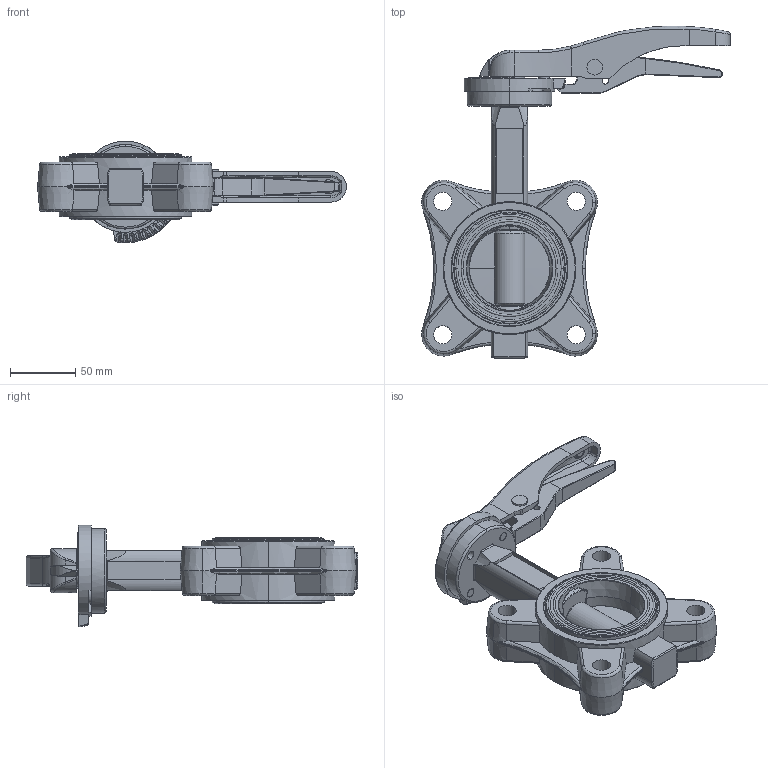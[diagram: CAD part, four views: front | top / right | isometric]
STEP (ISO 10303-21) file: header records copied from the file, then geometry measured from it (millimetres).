
FILE_DESCRIPTION (( 'STEP AP203' ), '1' );
FILE_NAME ('L9.DN065.STEP', '2021-06-15T14:19:25', ( '' ), ( '' ), 'SwSTEP 2.0', 'SolidWorks 2017', '' );
FILE_SCHEMA (( 'CONFIG_CONTROL_DESIGN' ));
Length unit declared in the file: millimetre
Products named in the file (1): L9.DN065
Bounding box: 237.31 x 255.09 x 78 mm (x, y, z)
Volume: 653843.5 mm3; surface area: 131074.5 mm2
Topology: 1 solids, 3 shells, 1255 faces, 3255 edges, 2059 vertices
Faces by surface type: plane 439, cylinder 354, bspline 181, torus 163, cone 104, sphere 14
Entity records: 46833 total; most frequent: CARTESIAN_POINT 17261, ORIENTED_EDGE 6478, DIRECTION 5819, EDGE_CURVE 3239, AXIS2_PLACEMENT_3D 2196, VERTEX_POINT 2059, LINE 1427, VECTOR 1427
